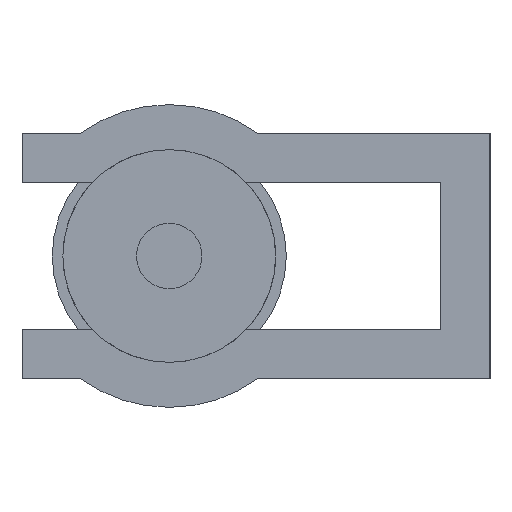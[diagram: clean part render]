
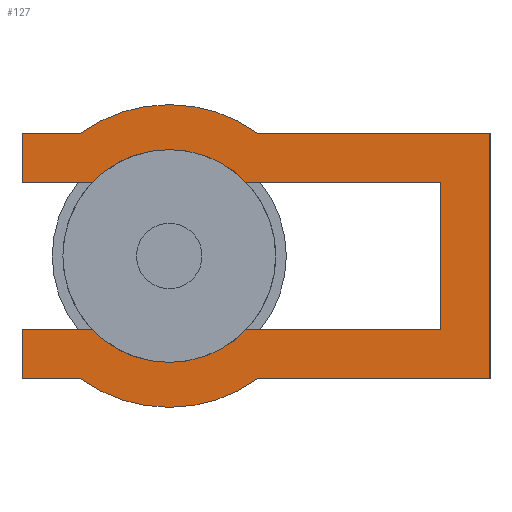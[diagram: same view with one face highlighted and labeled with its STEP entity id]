
A CAD part, left-side view. The second image highlights one B-rep face of the part: STEP entity #127.
In plain terms, the highlighted planar face has unit normal (-1, 0, 0).
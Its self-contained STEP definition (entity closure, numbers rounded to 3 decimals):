
#127=ADVANCED_FACE('',(#257),#258,.F.);
#257=FACE_OUTER_BOUND('',#392,.T.);
#258=PLANE('',#393);
#392=EDGE_LOOP('',(#809,#810,#811,#812,#813,#814,#815,#816,#817,#818,#819,#820,#821,#822,#823,#824));
#393=AXIS2_PLACEMENT_3D('',#825,#826,#827);
#809=ORIENTED_EDGE('',*,*,#922,.F.);
#810=ORIENTED_EDGE('',*,*,#1008,.T.);
#811=ORIENTED_EDGE('',*,*,#914,.F.);
#812=ORIENTED_EDGE('',*,*,#932,.F.);
#813=ORIENTED_EDGE('',*,*,#876,.F.);
#814=ORIENTED_EDGE('',*,*,#1009,.T.);
#815=ORIENTED_EDGE('',*,*,#868,.F.);
#816=ORIENTED_EDGE('',*,*,#887,.F.);
#817=ORIENTED_EDGE('',*,*,#906,.F.);
#818=ORIENTED_EDGE('',*,*,#990,.F.);
#819=ORIENTED_EDGE('',*,*,#955,.F.);
#820=ORIENTED_EDGE('',*,*,#1006,.F.);
#821=ORIENTED_EDGE('',*,*,#890,.F.);
#822=ORIENTED_EDGE('',*,*,#996,.F.);
#823=ORIENTED_EDGE('',*,*,#993,.F.);
#824=ORIENTED_EDGE('',*,*,#949,.F.);
#825=CARTESIAN_POINT('',(-16.4,0.0,0.0));
#826=DIRECTION('',(1.0,0.0,0.0));
#827=DIRECTION('',(0.0,1.0,0.0));
#868=EDGE_CURVE('',#1015,#1017,#1018,.T.);
#876=EDGE_CURVE('',#1031,#1033,#1034,.T.);
#887=EDGE_CURVE('',#1052,#1015,#1054,.T.);
#890=EDGE_CURVE('',#1058,#1060,#1061,.T.);
#906=EDGE_CURVE('',#1088,#1052,#1090,.T.);
#914=EDGE_CURVE('',#1104,#1106,#1107,.T.);
#922=EDGE_CURVE('',#1120,#1122,#1123,.T.);
#932=EDGE_CURVE('',#1033,#1104,#1141,.T.);
#949=EDGE_CURVE('',#1122,#1168,#1169,.T.);
#955=EDGE_CURVE('',#1178,#1180,#1181,.T.);
#990=EDGE_CURVE('',#1180,#1088,#1233,.T.);
#993=EDGE_CURVE('',#1168,#1237,#1238,.T.);
#996=EDGE_CURVE('',#1237,#1058,#1241,.T.);
#1006=EDGE_CURVE('',#1060,#1178,#1254,.T.);
#1008=EDGE_CURVE('',#1120,#1106,#1256,.T.);
#1009=EDGE_CURVE('',#1031,#1017,#1257,.T.);
#1015=VERTEX_POINT('',#1264);
#1017=VERTEX_POINT('',#1267);
#1018=LINE('',#1268,#1269);
#1031=VERTEX_POINT('',#1288);
#1033=VERTEX_POINT('',#1291);
#1034=LINE('',#1292,#1293);
#1052=VERTEX_POINT('',#1313);
#1054=LINE('',#1316,#1317);
#1058=VERTEX_POINT('',#1322);
#1060=VERTEX_POINT('',#1325);
#1061=LINE('',#1326,#1327);
#1088=VERTEX_POINT('',#1363);
#1090=LINE('',#1366,#1367);
#1104=VERTEX_POINT('',#1386);
#1106=VERTEX_POINT('',#1389);
#1107=LINE('',#1390,#1391);
#1120=VERTEX_POINT('',#1410);
#1122=VERTEX_POINT('',#1413);
#1123=LINE('',#1414,#1415);
#1141=LINE('',#1438,#1439);
#1168=VERTEX_POINT('',#1480);
#1169=LINE('',#1481,#1482);
#1178=VERTEX_POINT('',#1493);
#1180=VERTEX_POINT('',#1496);
#1181=LINE('',#1497,#1498);
#1233=CIRCLE('',#1570,9.25);
#1237=VERTEX_POINT('',#1576);
#1238=LINE('',#1577,#1578);
#1241=CIRCLE('',#1582,9.25);
#1254=LINE('',#1604,#1605);
#1256=CIRCLE('',#1608,6.5);
#1257=CIRCLE('',#1609,6.5);
#1264=CARTESIAN_POINT('',(-16.4,9.0,-4.5));
#1267=CARTESIAN_POINT('',(-16.4,4.69,-4.5));
#1268=CARTESIAN_POINT('',(-16.4,9.0,-4.5));
#1269=VECTOR('',#1614,1.0);
#1288=CARTESIAN_POINT('',(-16.4,-4.69,-4.5));
#1291=CARTESIAN_POINT('',(-16.4,-16.6,-4.5));
#1292=CARTESIAN_POINT('',(-16.4,-4.337,-4.5));
#1293=VECTOR('',#1622,1.0);
#1313=CARTESIAN_POINT('',(-16.4,9.0,-7.5));
#1316=CARTESIAN_POINT('',(-16.4,9.0,-7.5));
#1317=VECTOR('',#1647,1.0);
#1322=CARTESIAN_POINT('',(-16.4,-5.414,7.5));
#1325=CARTESIAN_POINT('',(-16.4,-19.6,7.5));
#1326=CARTESIAN_POINT('',(-16.4,-5.414,7.5));
#1327=VECTOR('',#1650,1.0);
#1363=CARTESIAN_POINT('',(-16.4,5.414,-7.5));
#1366=CARTESIAN_POINT('',(-16.4,5.414,-7.5));
#1367=VECTOR('',#1676,1.0);
#1386=CARTESIAN_POINT('',(-16.4,-16.6,4.5));
#1389=CARTESIAN_POINT('',(-16.4,-4.69,4.5));
#1390=CARTESIAN_POINT('',(-16.4,-16.6,4.5));
#1391=VECTOR('',#1686,1.0);
#1410=CARTESIAN_POINT('',(-16.4,4.69,4.5));
#1413=CARTESIAN_POINT('',(-16.4,9.0,4.5));
#1414=CARTESIAN_POINT('',(-16.4,4.337,4.5));
#1415=VECTOR('',#1694,1.0);
#1438=CARTESIAN_POINT('',(-16.4,-16.6,-4.5));
#1439=VECTOR('',#1712,1.0);
#1480=CARTESIAN_POINT('',(-16.4,9.0,7.5));
#1481=CARTESIAN_POINT('',(-16.4,9.0,4.5));
#1482=VECTOR('',#1733,1.0);
#1493=CARTESIAN_POINT('',(-16.4,-19.6,-7.5));
#1496=CARTESIAN_POINT('',(-16.4,-5.414,-7.5));
#1497=CARTESIAN_POINT('',(-16.4,-19.6,-7.5));
#1498=VECTOR('',#1743,1.0);
#1570=AXIS2_PLACEMENT_3D('',#1806,#1807,#1808);
#1576=CARTESIAN_POINT('',(-16.4,5.414,7.5));
#1577=CARTESIAN_POINT('',(-16.4,9.0,7.5));
#1578=VECTOR('',#1811,1.0);
#1582=AXIS2_PLACEMENT_3D('',#1816,#1817,#1818);
#1604=CARTESIAN_POINT('',(-16.4,-19.6,7.5));
#1605=VECTOR('',#1828,1.0);
#1608=AXIS2_PLACEMENT_3D('',#1830,#1831,#1832);
#1609=AXIS2_PLACEMENT_3D('',#1833,#1834,#1835);
#1614=DIRECTION('',(0.0,-1.0,0.0));
#1622=DIRECTION('',(0.0,-1.0,0.0));
#1647=DIRECTION('',(0.0,0.0,1.0));
#1650=DIRECTION('',(0.0,-1.0,0.0));
#1676=DIRECTION('',(0.0,1.0,0.0));
#1686=DIRECTION('',(0.0,1.0,0.0));
#1694=DIRECTION('',(0.0,1.0,0.0));
#1712=DIRECTION('',(0.0,0.0,1.0));
#1733=DIRECTION('',(0.0,0.0,1.0));
#1743=DIRECTION('',(0.0,1.0,0.0));
#1806=CARTESIAN_POINT('',(-16.4,0.0,0.));
#1807=DIRECTION('',(1.0,0.0,0.0));
#1808=DIRECTION('',(0.0,0.0,-1.0));
#1811=DIRECTION('',(0.0,-1.0,0.0));
#1816=CARTESIAN_POINT('',(-16.4,0.0,0.0));
#1817=DIRECTION('',(1.0,0.0,0.0));
#1818=DIRECTION('',(0.0,0.0,-1.0));
#1828=DIRECTION('',(0.0,0.0,-1.0));
#1830=CARTESIAN_POINT('',(-16.4,0.,0.0));
#1831=DIRECTION('',(1.0,0.0,0.0));
#1832=DIRECTION('',(0.0,0.0,-1.0));
#1833=CARTESIAN_POINT('',(-16.4,0.,0.0));
#1834=DIRECTION('',(1.0,0.0,0.0));
#1835=DIRECTION('',(0.0,0.0,-1.0));
